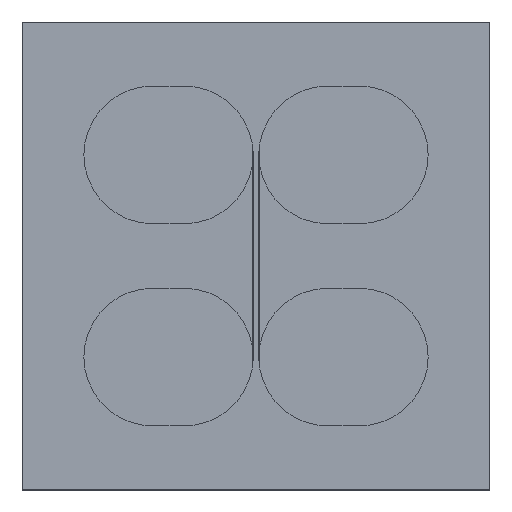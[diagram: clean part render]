
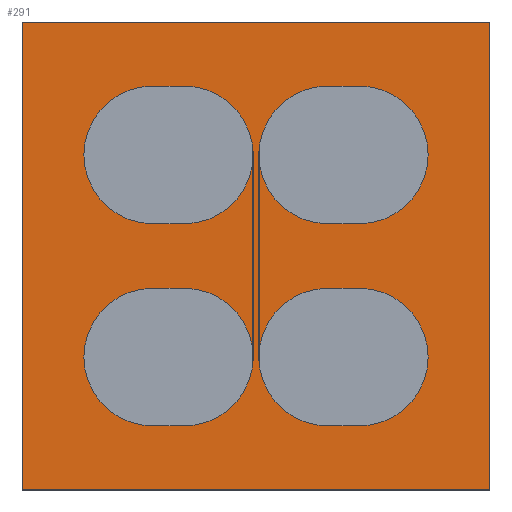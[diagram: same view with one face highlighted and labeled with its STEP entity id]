
A CAD part, top view. The second image highlights one B-rep face of the part: STEP entity #291.
In plain terms, the highlighted planar face has unit normal (0, 0, 1).
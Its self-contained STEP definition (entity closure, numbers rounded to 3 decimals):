
#291=ADVANCED_FACE('',(#547),#548,.T.);
#547=FACE_OUTER_BOUND('',#841,.T.);
#548=PLANE('',#842);
#841=EDGE_LOOP('',(#1285,#1286,#1287,#1288));
#842=AXIS2_PLACEMENT_3D('',#1289,#1290,#1291);
#1285=ORIENTED_EDGE('',*,*,#1674,.T.);
#1286=ORIENTED_EDGE('',*,*,#1682,.T.);
#1287=ORIENTED_EDGE('',*,*,#1741,.T.);
#1288=ORIENTED_EDGE('',*,*,#1713,.T.);
#1289=CARTESIAN_POINT('',(0.0,0.0,-6.5));
#1290=DIRECTION('',(0.0,0.0,1.0));
#1291=DIRECTION('',(1.0,0.0,0.0));
#1674=EDGE_CURVE('',#1977,#1982,#1984,.T.);
#1682=EDGE_CURVE('',#1982,#1994,#1996,.T.);
#1713=EDGE_CURVE('',#2037,#1977,#2041,.T.);
#1741=EDGE_CURVE('',#1994,#2037,#2080,.T.);
#1977=VERTEX_POINT('',#2386);
#1982=VERTEX_POINT('',#2393);
#1984=LINE('',#2396,#2397);
#1994=VERTEX_POINT('',#2411);
#1996=LINE('',#2414,#2415);
#2037=VERTEX_POINT('',#2473);
#2041=LINE('',#2479,#2480);
#2080=LINE('',#2530,#2531);
#2386=CARTESIAN_POINT('',(125.0,-125.0,-6.5));
#2393=CARTESIAN_POINT('',(125.0,125.0,-6.5));
#2396=CARTESIAN_POINT('',(125.0,0.0,-6.5));
#2397=VECTOR('',#2731,1.0);
#2411=CARTESIAN_POINT('',(-125.0,125.0,-6.5));
#2414=CARTESIAN_POINT('',(0.0,125.0,-6.5));
#2415=VECTOR('',#2737,1.0);
#2473=CARTESIAN_POINT('',(-125.0,-125.0,-6.5));
#2479=CARTESIAN_POINT('',(0.0,-125.0,-6.5));
#2480=VECTOR('',#2760,1.0);
#2530=CARTESIAN_POINT('',(-125.0,0.0,-6.5));
#2531=VECTOR('',#2793,1.0);
#2731=DIRECTION('',(0.0,1.0,0.0));
#2737=DIRECTION('',(-1.0,0.0,0.0));
#2760=DIRECTION('',(1.0,0.0,0.0));
#2793=DIRECTION('',(0.0,-1.0,0.0));
